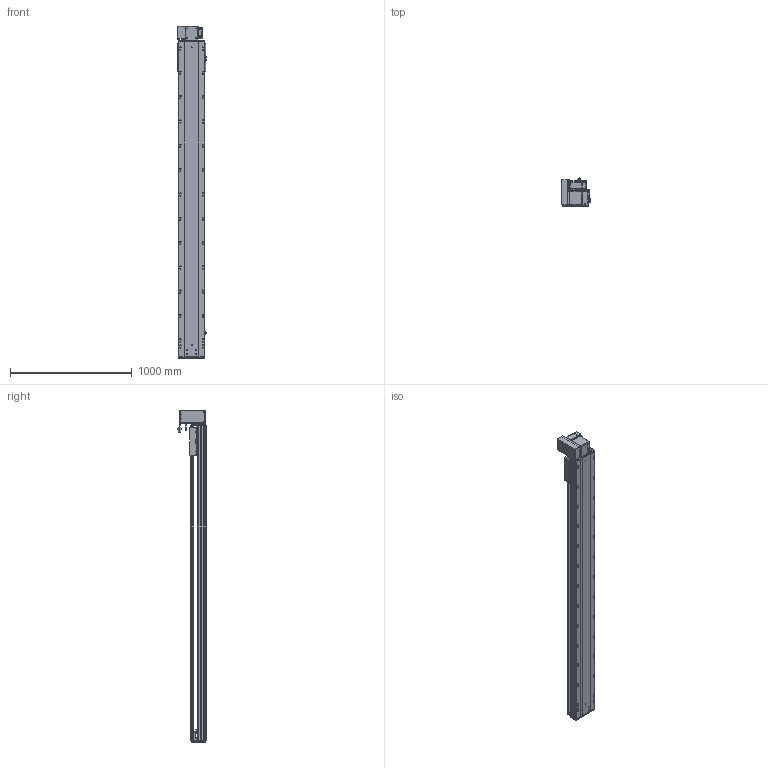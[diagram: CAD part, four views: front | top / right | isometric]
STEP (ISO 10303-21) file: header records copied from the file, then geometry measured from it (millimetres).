
FILE_DESCRIPTION (( 'STEP AP203' ), '1' );
FILE_NAME ('RY220-T-300-UL.SLDASM_2250.step', '2022-07-25T08:35:18', ( '' ), ( '' ), 'SwSTEP 2.0', 'SolidWorks 2016', '' );
FILE_SCHEMA (( 'CONFIG_CONTROL_DESIGN' ));
Length unit declared in the file: millimetre
Products named in the file (14): RY220-T-蛌殏萇儂假蚾啣(750W); 覜茼ん672; RY220翋肮祭謫釱; RY220翋肮祭謫裔啣; RY220-同步轮副支撑座6304×2; RY220-T-300-奻裔啣_2250; 滅袉蝶18-15; RY220-T-300-UL.SLDASM_2250; 怢湛750W_ECMA-CX0807ES; 110A-T-肮祭謫釱傷裔; RY220-T菁釱-300_2250; RY220-俋离672覜茼んえ; RY220-T-湍謫欶(鍼踢); RY220圉猾敕々湍臏賑輸
Assembly tree (18 placements, depth 2):
  RY220-T-300-UL.SLDASM_2250
    RY220-T菁釱-300_2250
    RY220翋肮祭謫釱
    覜茼ん672  x3
    RY220圉猾敕々湍臏賑輸
    RY220-T-300-奻裔啣_2250
    RY220-俋离672覜茼んえ
    滅袉蝶18-15  x3
    RY220翋肮祭謫裔啣  x2
    110A-T-肮祭謫釱傷裔
    怢湛750W_ECMA-CX0807ES
    RY220-T-湍謫欶(鍼踢)
    RY220-T-蛌殏萇儂假蚾啣(750W)
    RY220-同步轮副支撑座6304×2
Bounding box: 239.7 x 231.74 x 2730.5 mm (x, y, z)
Volume: 20346024.5 mm3; surface area: 6218000.6 mm2
Topology: 19 solids, 19 shells, 2890 faces, 7991 edges, 5024 vertices
Faces by surface type: cylinder 1406, plane 1069, cone 333, bspline 56, sphere 16, torus 10
Entity records: 96371 total; most frequent: CARTESIAN_POINT 27289, ORIENTED_EDGE 14298, DIRECTION 13720, EDGE_CURVE 7149, AXIS2_PLACEMENT_3D 4924, VERTEX_POINT 4648, VECTOR 3872, LINE 3872
